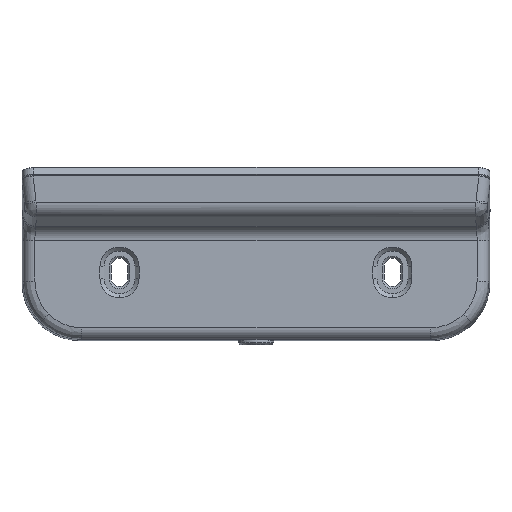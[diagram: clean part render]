
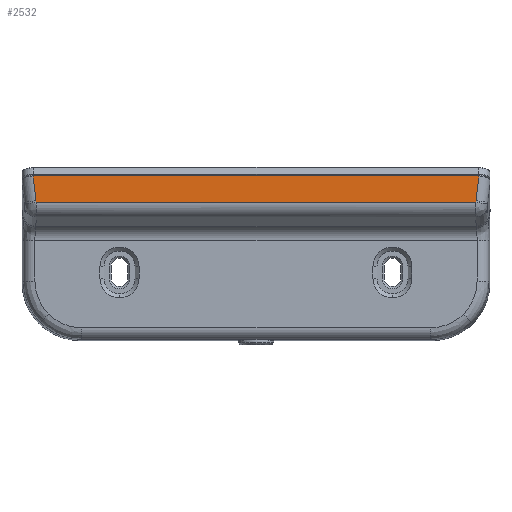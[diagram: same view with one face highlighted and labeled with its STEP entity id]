
A CAD part, front view. The second image highlights one B-rep face of the part: STEP entity #2532.
In plain terms, the highlighted planar face has unit normal (0, -1, 0).
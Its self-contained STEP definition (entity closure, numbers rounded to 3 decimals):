
#117 = CARTESIAN_POINT ( 'NONE',  ( 55.963, 0., 9.384 ) ) ;
#498 = CARTESIAN_POINT ( 'NONE',  ( -56.365, 0., 12.911 ) ) ;
#965 = ORIENTED_EDGE ( 'NONE', *, *, #10242, .T. ) ;
#1022 = VECTOR ( 'NONE', #1584, 1000. ) ;
#1066 = DIRECTION ( 'NONE',  ( 0., 1., 0. ) ) ;
#1180 = CARTESIAN_POINT ( 'NONE',  ( 56.365, 0., 12.911 ) ) ;
#1183 = EDGE_CURVE ( 'NONE', #8015, #10120, #8255, .T. ) ;
#1282 = CARTESIAN_POINT ( 'NONE',  ( -56.417, 0., 13.392 ) ) ;
#1584 = DIRECTION ( 'NONE',  ( -1., 0., 0. ) ) ;
#1646 = VECTOR ( 'NONE', #8099, 1000. ) ;
#2108 = LINE ( 'NONE', #117, #8797 ) ;
#2532 = ADVANCED_FACE ( 'NONE', ( #6532 ), #6160, .F. ) ;
#2607 = VERTEX_POINT ( 'NONE', #1180 ) ;
#2620 = CARTESIAN_POINT ( 'NONE',  ( 57.135, 0., 19.742 ) ) ;
#2671 = LINE ( 'NONE', #8595, #10515 ) ;
#2675 = EDGE_CURVE ( 'NONE', #3893, #2607, #2671, .T. ) ;
#2755 = EDGE_CURVE ( 'NONE', #2607, #11328, #4976, .T. ) ;
#3315 = EDGE_LOOP ( 'NONE', ( #7256, #965, #4654, #9657, #7618, #10115 ) ) ;
#3501 = CARTESIAN_POINT ( 'NONE',  ( -57.135, 0., 19.742 ) ) ;
#3893 = VERTEX_POINT ( 'NONE', #6951 ) ;
#4051 = LINE ( 'NONE', #7175, #1646 ) ;
#4053 = EDGE_CURVE ( 'NONE', #10120, #4776, #4051, .T. ) ;
#4338 = CARTESIAN_POINT ( 'NONE',  ( 56.417, 0., 13.392 ) ) ;
#4599 = DIRECTION ( 'NONE',  ( 0.112, 0., 0.994 ) ) ;
#4654 = ORIENTED_EDGE ( 'NONE', *, *, #1183, .T. ) ;
#4776 = VERTEX_POINT ( 'NONE', #1282 ) ;
#4976 =( BOUNDED_CURVE ( )  B_SPLINE_CURVE ( 3, ( #6149, #11608, #9798, #4338 ),
 .UNSPECIFIED., .F., .F. ) 
 B_SPLINE_CURVE_WITH_KNOTS ( ( 4, 4 ),
 ( 0.044, 0.056 ),
 .UNSPECIFIED. ) 
 CURVE ( )  GEOMETRIC_REPRESENTATION_ITEM ( )  RATIONAL_B_SPLINE_CURVE ( ( 1., 1., 1., 1. ) ) 
 REPRESENTATION_ITEM ( '' )  );
#4997 = CARTESIAN_POINT ( 'NONE',  ( -56.399, 0., 13.232 ) ) ;
#5938 = CARTESIAN_POINT ( 'NONE',  ( -56.381, 0., 13.071 ) ) ;
#6149 = CARTESIAN_POINT ( 'NONE',  ( 56.365, 0., 12.911 ) ) ;
#6160 = PLANE ( 'NONE',  #6181 ) ;
#6181 = AXIS2_PLACEMENT_3D ( 'NONE', #6515, #1066, #7416 ) ;
#6515 = CARTESIAN_POINT ( 'NONE',  ( -60., 0., 22.5 ) ) ;
#6532 = FACE_OUTER_BOUND ( 'NONE', #3315, .T. ) ;
#6951 = CARTESIAN_POINT ( 'NONE',  ( -56.365, 0., 12.911 ) ) ;
#7175 = CARTESIAN_POINT ( 'NONE',  ( -57.479, 0., 22.785 ) ) ;
#7256 = ORIENTED_EDGE ( 'NONE', *, *, #2755, .T. ) ;
#7416 = DIRECTION ( 'NONE',  ( -1., 0., 0. ) ) ;
#7618 = ORIENTED_EDGE ( 'NONE', *, *, #8229, .T. ) ;
#7720 = CARTESIAN_POINT ( 'NONE',  ( -56.417, 0., 13.392 ) ) ;
#8015 = VERTEX_POINT ( 'NONE', #2620 ) ;
#8099 = DIRECTION ( 'NONE',  ( 0.112, 0., -0.994 ) ) ;
#8229 = EDGE_CURVE ( 'NONE', #4776, #3893, #8435, .T. ) ;
#8255 = LINE ( 'NONE', #8846, #1022 ) ;
#8435 =( BOUNDED_CURVE ( )  B_SPLINE_CURVE ( 3, ( #7720, #4997, #5938, #498 ),
 .UNSPECIFIED., .F., .F. ) 
 B_SPLINE_CURVE_WITH_KNOTS ( ( 4, 4 ),
 ( 6.227, 6.239 ),
 .UNSPECIFIED. ) 
 CURVE ( )  GEOMETRIC_REPRESENTATION_ITEM ( )  RATIONAL_B_SPLINE_CURVE ( ( 1., 1., 1., 1. ) ) 
 REPRESENTATION_ITEM ( '' )  );
#8595 = CARTESIAN_POINT ( 'NONE',  ( 59.004, 0., 12.911 ) ) ;
#8797 = VECTOR ( 'NONE', #4599, 1000. ) ;
#8846 = CARTESIAN_POINT ( 'NONE',  ( -60., 0., 19.742 ) ) ;
#9644 = CARTESIAN_POINT ( 'NONE',  ( 56.417, 0., 13.392 ) ) ;
#9657 = ORIENTED_EDGE ( 'NONE', *, *, #4053, .T. ) ;
#9798 = CARTESIAN_POINT ( 'NONE',  ( 56.399, 0., 13.232 ) ) ;
#10115 = ORIENTED_EDGE ( 'NONE', *, *, #2675, .T. ) ;
#10120 = VERTEX_POINT ( 'NONE', #3501 ) ;
#10242 = EDGE_CURVE ( 'NONE', #11328, #8015, #2108, .T. ) ;
#10439 = DIRECTION ( 'NONE',  ( 1., 0., 0. ) ) ;
#10515 = VECTOR ( 'NONE', #10439, 1000. ) ;
#11328 = VERTEX_POINT ( 'NONE', #9644 ) ;
#11608 = CARTESIAN_POINT ( 'NONE',  ( 56.381, 0., 13.071 ) ) ;
